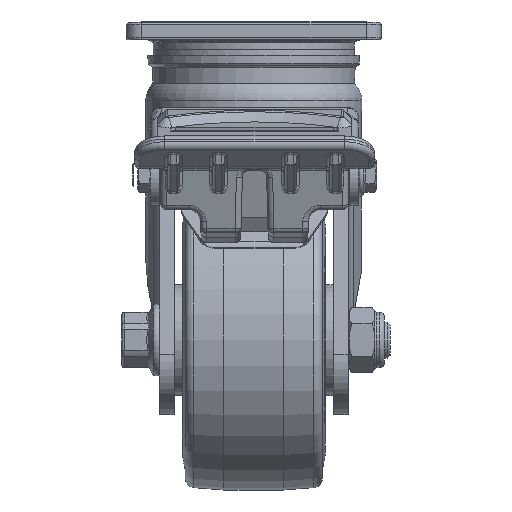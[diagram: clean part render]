
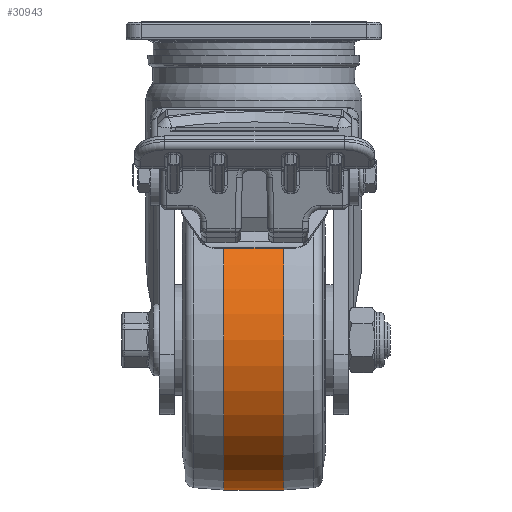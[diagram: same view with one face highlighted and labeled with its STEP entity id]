
A CAD part, left-side view. The second image highlights one B-rep face of the part: STEP entity #30943.
In plain terms, the highlighted cylindrical face has radius 50 mm (diameter 100 mm), a full revolution.
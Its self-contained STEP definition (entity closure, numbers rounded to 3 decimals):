
#4479=FACE_OUTER_BOUND('',#6216,.T.);
#6216=EDGE_LOOP('',(#26459,#26460,#26461,#26462));
#8707=LINE('',#53235,#11422);
#11422=VECTOR('',#39165,50.);
#13454=CIRCLE('',#33336,50.);
#13455=CIRCLE('',#33338,50.);
#15413=VERTEX_POINT('',#53230);
#15414=VERTEX_POINT('',#53234);
#19270=EDGE_CURVE('',#15413,#15413,#13454,.T.);
#19272=EDGE_CURVE('',#15413,#15414,#8707,.T.);
#19273=EDGE_CURVE('',#15414,#15414,#13455,.T.);
#26459=ORIENTED_EDGE('',*,*,#19270,.F.);
#26460=ORIENTED_EDGE('',*,*,#19272,.T.);
#26461=ORIENTED_EDGE('',*,*,#19273,.T.);
#26462=ORIENTED_EDGE('',*,*,#19272,.F.);
#29776=CYLINDRICAL_SURFACE('',#33337,50.);
#30943=ADVANCED_FACE('',(#4479),#29776,.T.);
#33336=AXIS2_PLACEMENT_3D('',#53231,#39160,#39161);
#33337=AXIS2_PLACEMENT_3D('',#53233,#39163,#39164);
#33338=AXIS2_PLACEMENT_3D('',#53236,#39166,#39167);
#39160=DIRECTION('center_axis',(0.,-1.,0.));
#39161=DIRECTION('ref_axis',(0.174,0.,-0.985));
#39163=DIRECTION('center_axis',(0.,-1.,0.));
#39164=DIRECTION('ref_axis',(0.985,0.,0.174));
#39165=DIRECTION('',(0.,1.,0.));
#39166=DIRECTION('center_axis',(0.,-1.,0.));
#39167=DIRECTION('ref_axis',(0.174,0.,-0.985));
#53230=CARTESIAN_POINT('',(36.964,40.078,-126.497));
#53231=CARTESIAN_POINT('Origin',(86.204,40.078,-117.812));
#53233=CARTESIAN_POINT('Origin',(86.204,50.078,-117.812));
#53234=CARTESIAN_POINT('',(36.964,60.078,-126.497));
#53235=CARTESIAN_POINT('',(36.964,50.078,-126.497));
#53236=CARTESIAN_POINT('Origin',(86.204,60.078,-117.812));
